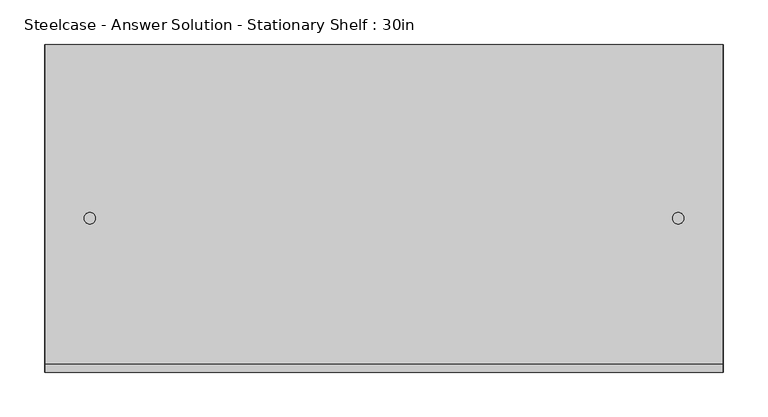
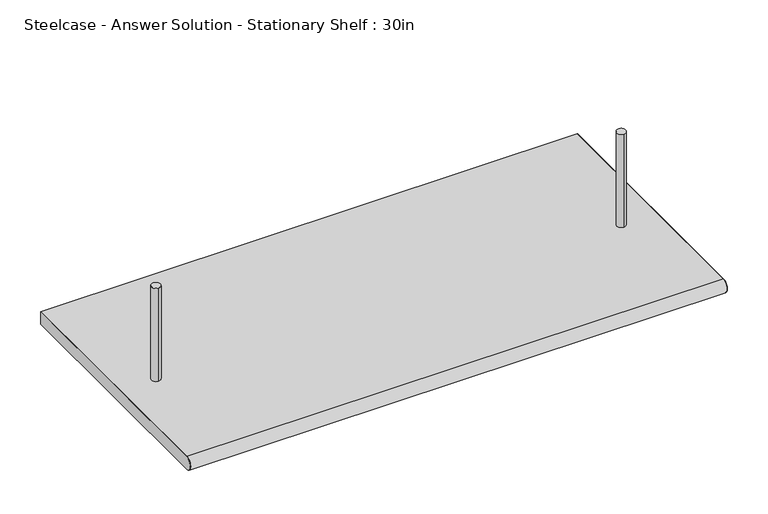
"""IFC4 building model written with IfcOpenShell, lengths in millimetres: furniture geometry, Steelcase - Answer Solution - Stationary Shelf : 30in."""

from ifc_helpers import new_model, si_unit, point, frame, frame_2d, origin, place, context, project, spatial, polyline, circle_curve, trimmed, segment, composite_curve, outline, extrude, source, transform, mapped, element, save


def steelcase_answer_solution_stationary_shelf_30in_817875bc(model_context):
    return source(origin(), model_context, "Body", "SweptSolid", [
        extrude(outline(composite_curve([segment(trimmed(circle_curve(frame_2d((711.2, -195.2625)), 6.35), [point((711.2, -201.6125))], [point((711.2, -188.9125))], False, "CARTESIAN"), True, "CONTINUOUS"), segment(trimmed(circle_curve(frame_2d((711.2, -195.2625)), 6.35), [point((711.2, -188.9125))], [point((711.2, -201.6125))], False, "CARTESIAN"), True, "CONTINUOUS")], self_intersect=False)), frame((0.0, 0.0, 1136.6500242), z_axis=(0.0, 0.0, 1.0), x_axis=(1.0, 0.0, 0.0)), (0.0, 0.0, 1.0), 139.6999758),
        extrude(outline(composite_curve([segment(trimmed(circle_curve(frame_2d((50.8, -195.2625)), 6.35), [point((50.8, -201.6125))], [point((50.8, -188.9125))], False, "CARTESIAN"), True, "CONTINUOUS"), segment(trimmed(circle_curve(frame_2d((50.8, -195.2625)), 6.35), [point((50.8, -188.9125))], [point((50.8, -201.6125))], False, "CARTESIAN"), True, "CONTINUOUS")], self_intersect=False)), frame((0.0, 0.0, 1136.6500242), z_axis=(0.0, 0.0, 1.0), x_axis=(1.0, 0.0, 0.0)), (0.0, 0.0, 1.0), 139.6999758),
        extrude(outline(composite_curve([segment(polyline([(-358.7557809, 1136.6500242), (0.0, 1136.6500242), (0.0, 1117.6000242), (-358.7557809, 1117.6000242)]), True, "CONTINUOUS"), segment(trimmed(circle_curve(frame_2d((-358.7557809, 1127.1250242)), 9.525), [point((-358.7557809, 1117.6000242))], [point((-358.7557809, 1136.6500242))], False, "CARTESIAN"), True, "CONTINUOUS")], self_intersect=False)), frame((761.799975, 0.0, 0.0), z_axis=(1.0, 0.0, 0.0), x_axis=(0.0, 1.0, 0.0)), (0.0, 0.0, 1.0), 0.200025),
        extrude(outline(composite_curve([segment(polyline([(-358.7557809, 1136.6500242), (0.0, 1136.6500242), (0.0, 1117.6000242), (-358.7557809, 1117.6000242)]), True, "CONTINUOUS"), segment(trimmed(circle_curve(frame_2d((-358.7557809, 1127.1250242)), 9.525), [point((-358.7557809, 1117.6000242))], [point((-358.7557809, 1136.6500242))], False, "CARTESIAN"), True, "CONTINUOUS")], self_intersect=False)), frame((0.0, 0.0, 0.0), z_axis=(1.0, 0.0, 0.0), x_axis=(0.0, 1.0, 0.0)), (0.0, 0.0, 1.0), 0.200025),
        extrude(outline(composite_curve([segment(polyline([(0.0, 1136.6500242), (0.0, 1117.6000242), (-358.7557809, 1117.6000242)]), True, "CONTINUOUS"), segment(trimmed(circle_curve(frame_2d((-358.7557809, 1127.1250242)), 9.525), [point((-358.7557809, 1117.6000242))], [point((-358.7557809, 1136.6500242))], False, "CARTESIAN"), True, "CONTINUOUS"), segment(polyline([(-358.7557809, 1136.6500242), (0.0, 1136.6500242)]), True, "CONTINUOUS")], self_intersect=False)), frame((0.200025, 0.0, 0.0), z_axis=(1.0, 0.0, 0.0), x_axis=(0.0, 1.0, 0.0)), (0.0, 0.0, 1.0), 761.59995),
    ])


if __name__ == "__main__":
    model = new_model("IFC4")
    model_context = context("Model", 3, world=origin())
    ifc_project = project(units=[si_unit("LENGTHUNIT", "METRE", prefix="MILLI")], contexts=[model_context])
    site = spatial("IfcSite", under=ifc_project)
    building = spatial("IfcBuilding", under=site)
    placement = place(None, origin())
    steelcase_answer_solution_stationary_shelf_30in_shape = steelcase_answer_solution_stationary_shelf_30in_817875bc(model_context)
    element("IfcFurniture", 1, ObjectType="Steelcase - Answer Solution - Stationary Shelf : 30in", at=placement, inside=building, context=model_context, shape_type="MappedRepresentation", body=[
        mapped(steelcase_answer_solution_stationary_shelf_30in_shape, transform((0.0, 0.0, 0.0), x_axis=(1.0, 0.0, 0.0), y_axis=(0.0, 1.0, 0.0), z_axis=(0.0, 0.0, 1.0))),
    ])
    save(model, "model.ifc")
